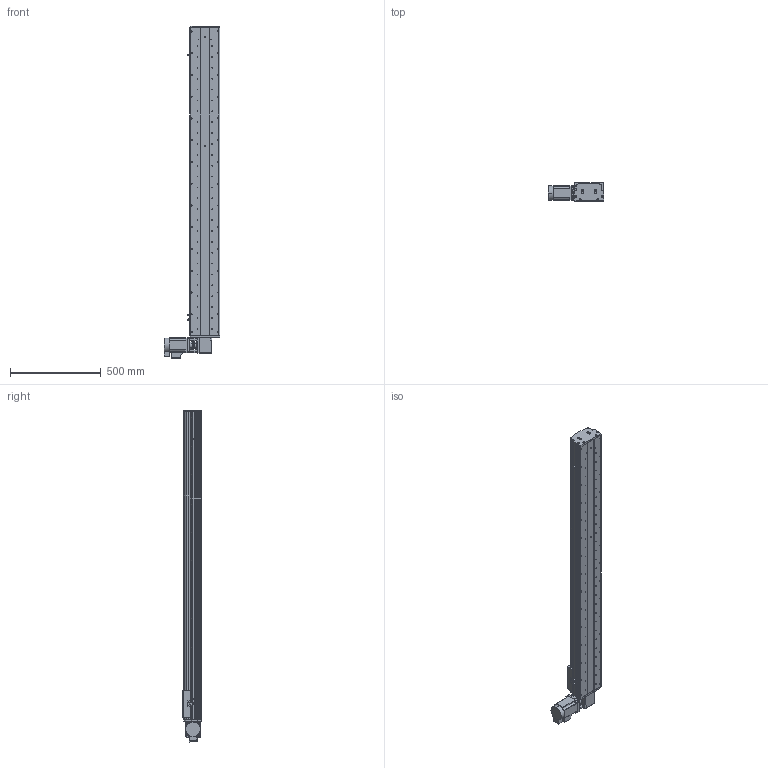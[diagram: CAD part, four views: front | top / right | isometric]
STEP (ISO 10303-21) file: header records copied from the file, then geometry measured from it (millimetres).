
FILE_DESCRIPTION (( 'STEP AP214' ), '1' );
FILE_NAME ('KSD165B-S1450-MRT-CM.STEP', '2017-10-17T01:45:18', ( '微软用户' ), ( '微软中国' ), 'SwSTEP 2.0', 'SolidWorks 2014', '' );
FILE_SCHEMA (( 'AUTOMOTIVE_DESIGN' ));
Length unit declared in the file: millimetre
Products named in the file (16): KSD165模组-同步带滑动座-最新版; KSD165B-S1450-MRT-CM; 165宽马达安装板同步带左-改; KSD165模组-同步带防尘盖1-1450行程; KSD165模组同步带底板-1450行程; 拸秶雄ん750W侜督萇儂; 165宽安装板同步带带电机座750W; C39ㄜ1419WP; U倰嫖萇假蚾璃; U倰嫖萇EEㄜSX672; 覜茼え68遵圉猾敕; KSD165模组-同步带-防撞垫2; KSD165模组同步带-防撞垫1; KSD165耀郪-ヶ傷啣1-肮祭湍; KSD165模组-后端板1-同步带; 130宽马达安装板1-带电机座750W（1）
Assembly tree (19 placements, depth 2):
  KSD165B-S1450-MRT-CM
    KSD165模组-同步带滑动座-最新版
    130宽马达安装板1-带电机座750W（1）
    KSD165模组-后端板1-同步带
    KSD165耀郪-ヶ傷啣1-肮祭湍
    KSD165模组同步带-防撞垫1
    KSD165模组-同步带-防撞垫2
    覜茼え68遵圉猾敕
    U倰嫖萇EEㄜSX672  x3
    U倰嫖萇假蚾璃  x3
    C39ㄜ1419WP
    165宽安装板同步带带电机座750W
    拸秶雄ん750W侜督萇儂
    KSD165模组同步带底板-1450行程
    KSD165模组-同步带防尘盖1-1450行程
    165宽马达安装板同步带左-改
Bounding box: 307.5 x 104 x 1831.25 mm (x, y, z)
Volume: 9914415.7 mm3; surface area: 2261003.2 mm2
Topology: 20 solids, 21 shells, 1586 faces, 4428 edges, 2873 vertices
Faces by surface type: cylinder 901, plane 591, cone 94
Entity records: 51363 total; most frequent: CARTESIAN_POINT 10759, DIRECTION 7946, ORIENTED_EDGE 7508, EDGE_CURVE 3754, AXIS2_PLACEMENT_3D 3044, VERTEX_POINT 2465, LINE 1858, VECTOR 1858
